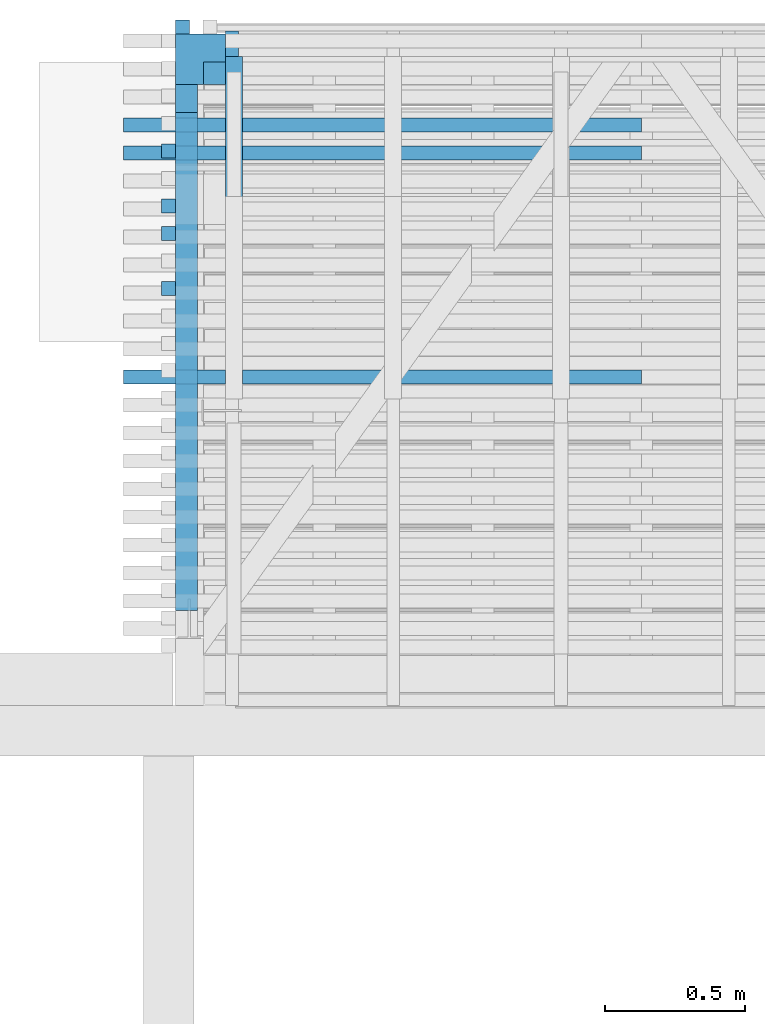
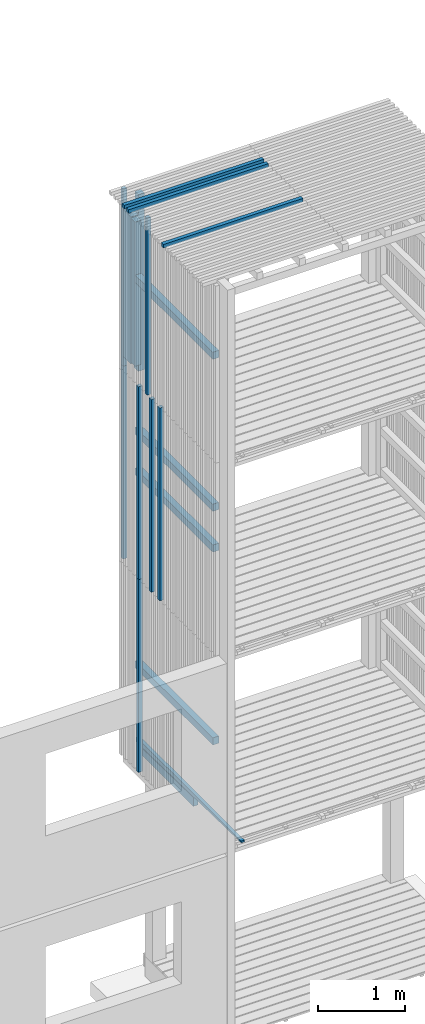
# One storey, part 13 of 182: 18 beams.
"""IFC2X3 building model written with IfcOpenShell, lengths in metres."""

from ifc_helpers import new_model, si_unit, frame, origin, place, context, project, spatial, faceted_brep, element, save


model = new_model("IFC2X3")

# Units and contexts
model_context = context("Model", 3, precision=1e-06, world=origin())
ifc_project = project(units=[si_unit("LENGTHUNIT", "METRE"), si_unit("PLANEANGLEUNIT", "RADIAN")], contexts=[model_context])

# Site, building, storey
site = spatial("IfcSite", under=ifc_project, CompositionType="ELEMENT")
building = spatial("IfcBuilding", under=site, CompositionType="ELEMENT")
storey = spatial("IfcBuildingStorey", under=building, Name="vs", CompositionType="ELEMENT", Elevation=-0.85)

# Beams
placement = place(None, origin())
beam_1_placement = place(placement, frame((3.339197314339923, 12.895077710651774, 5.274999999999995), z_axis=(0.0, -1.0, 0.0), x_axis=(0.0, 0.0, 1.0)))
element("IfcBeam", 1, at=beam_1_placement, inside=storey, Name="Bardage", context=model_context, shape_type="Brep", body=[
    faceted_brep([(1e-15, -0.025000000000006, 0.025000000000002), (1e-15, 0.024999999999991, 0.025000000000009), (1e-15, 0.025000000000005, -0.024999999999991), (1e-15, -0.024999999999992, -0.024999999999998), (2.699999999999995, -0.024999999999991, -0.024999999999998), (2.699999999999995, 0.025000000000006, -0.024999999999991), (2.699999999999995, 0.024999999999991, 0.025000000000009), (2.699999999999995, -0.025000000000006, 0.025000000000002), (1e-15, -0.025000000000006, 0.025000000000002), (1e-15, -0.024999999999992, -0.024999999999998), (2.699999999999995, -0.024999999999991, -0.024999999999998), (2.699999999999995, -0.025000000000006, 0.025000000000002), (2.699999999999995, -0.024999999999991, -0.024999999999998), (1e-15, -0.024999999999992, -0.024999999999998), (1e-15, 0.025000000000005, -0.024999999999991), (2.699999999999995, 0.025000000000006, -0.024999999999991), (2.699999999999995, 0.025000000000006, -0.024999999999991), (1e-15, 0.025000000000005, -0.024999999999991), (1e-15, 0.024999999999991, 0.025000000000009), (2.699999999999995, 0.024999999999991, 0.025000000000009), (2.699999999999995, 0.024999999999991, 0.025000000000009), (1e-15, 0.024999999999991, 0.025000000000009), (1e-15, -0.025000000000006, 0.025000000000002), (2.699999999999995, -0.025000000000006, 0.025000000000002)], [[[0, 1, 2, 3]], [[4, 5, 6, 7]], [[8, 9, 10, 11]], [[12, 13, 14, 15]], [[16, 17, 18, 19]], [[20, 21, 22, 23]]]),
])
beam_2_placement = place(placement, frame((3.339197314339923, 12.895077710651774, 7.974999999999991), z_axis=(0.0, -1.0, 0.0), x_axis=(0.0, 0.0, 1.0)))
element("IfcBeam", 2, at=beam_2_placement, inside=storey, Name="Bardage", context=model_context, shape_type="Brep", body=[
    faceted_brep([(2.479999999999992, -0.025000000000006, 0.025000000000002), (2.479999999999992, -0.024999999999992, -0.024999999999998), (2.479999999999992, 0.025000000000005, -0.024999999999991), (2.479999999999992, 0.024999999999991, 0.025000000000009), (0.0, 0.024999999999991, 0.025000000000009), (0.0, -0.025000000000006, 0.025000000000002), (2.479999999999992, -0.025000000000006, 0.025000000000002), (2.479999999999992, 0.024999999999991, 0.025000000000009), (0.0, -0.025000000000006, 0.025000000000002), (0.0, 0.024999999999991, 0.025000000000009), (0.0, 0.025000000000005, -0.024999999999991), (0.0, -0.024999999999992, -0.024999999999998), (0.0, 0.025000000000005, -0.024999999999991), (0.0, 0.024999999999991, 0.025000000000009), (2.479999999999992, 0.024999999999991, 0.025000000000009), (2.479999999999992, 0.025000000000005, -0.024999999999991), (0.0, -0.024999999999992, -0.024999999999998), (0.0, 0.025000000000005, -0.024999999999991), (2.479999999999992, 0.025000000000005, -0.024999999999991), (2.479999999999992, -0.024999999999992, -0.024999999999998), (2.479999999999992, -0.025000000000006, 0.025000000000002), (0.0, -0.025000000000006, 0.025000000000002), (0.0, -0.024999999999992, -0.024999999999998), (2.479999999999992, -0.024999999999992, -0.024999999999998)], [[[0, 1, 2, 3]], [[4, 5, 6, 7]], [[8, 9, 10, 11]], [[12, 13, 14, 15]], [[16, 17, 18, 19]], [[20, 21, 22, 23]]]),
])
beam_3_placement = place(placement, frame((3.404197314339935, 12.780077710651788, 7.979999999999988), z_axis=(0.0, -1.0, 0.0), x_axis=(0.0, 0.0, 1.0)))
element("IfcBeam", 3, at=beam_3_placement, inside=storey, Name="Poteau", context=model_context, shape_type="Brep", body=[
    faceted_brep([(2.194999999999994, -0.009999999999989, 0.089999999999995), (2.194999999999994, -0.009999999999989, 0.010000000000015), (2.194999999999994, -0.089999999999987, 0.010000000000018), (2.194999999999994, -0.089999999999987, -0.090000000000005), (2.194999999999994, 0.090000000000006, -0.090000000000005), (2.194999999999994, 0.090000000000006, 0.089999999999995), (0.139999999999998, 0.090000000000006, 0.089999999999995), (2.194999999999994, 0.090000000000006, 0.089999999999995), (2.194999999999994, 0.090000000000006, -0.090000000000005), (0.139999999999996, 0.090000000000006, -0.090000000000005), (0.059999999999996, -0.009999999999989, -0.009999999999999), (0.059999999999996, -0.089999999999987, -0.009999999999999), (-1e-15, -0.089999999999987, -0.009999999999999), (-1e-15, -0.009999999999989, -0.009999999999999), (-1e-15, -0.009999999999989, 0.089999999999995), (-1e-15, -0.009999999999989, -0.009999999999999), (-1e-15, -0.089999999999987, -0.009999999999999), (-1e-15, -0.089999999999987, 0.089999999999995), (0.139999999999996, -0.009999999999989, -0.090000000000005), (0.139999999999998, -0.009999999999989, 0.089999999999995), (0.139999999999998, 0.090000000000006, 0.089999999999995), (0.139999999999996, 0.090000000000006, -0.090000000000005), (0.059999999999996, -0.089999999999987, -0.009999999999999), (0.059999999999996, -0.009999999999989, -0.009999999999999), (0.059999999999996, -0.009999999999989, -0.090000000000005), (0.059999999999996, -0.089999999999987, -0.090000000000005), (-1e-15, -0.009999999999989, -0.009999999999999), (-1e-15, -0.009999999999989, 0.089999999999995), (0.139999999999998, -0.009999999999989, 0.089999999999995), (0.139999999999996, -0.009999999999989, -0.090000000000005), (0.059999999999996, -0.009999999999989, -0.090000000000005), (0.059999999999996, -0.009999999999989, -0.009999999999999), (0.059999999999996, -0.089999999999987, -0.090000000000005), (0.059999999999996, -0.009999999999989, -0.090000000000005), (0.139999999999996, -0.009999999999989, -0.090000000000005), (0.139999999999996, 0.090000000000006, -0.090000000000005), (2.194999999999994, 0.090000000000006, -0.090000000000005), (2.194999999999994, -0.089999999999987, -0.090000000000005), (2.474999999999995, -0.089999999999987, 0.089999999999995), (-1e-15, -0.089999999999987, 0.089999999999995), (-1e-15, -0.089999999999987, -0.009999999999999), (0.059999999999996, -0.089999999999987, -0.009999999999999), (0.059999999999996, -0.089999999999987, -0.090000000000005), (2.194999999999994, -0.089999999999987, -0.090000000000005), (2.194999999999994, -0.089999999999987, 0.010000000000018), (2.474999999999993, -0.089999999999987, 0.010000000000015), (2.474999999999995, -0.089999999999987, 0.089999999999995), (2.474999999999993, -0.089999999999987, 0.010000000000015), (2.474999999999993, -0.009999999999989, 0.010000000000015), (2.474999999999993, -0.009999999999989, 0.089999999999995), (2.194999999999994, -0.089999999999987, 0.010000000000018), (2.194999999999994, -0.009999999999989, 0.010000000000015), (2.474999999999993, -0.009999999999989, 0.010000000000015), (2.474999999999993, -0.089999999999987, 0.010000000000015), (2.474999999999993, -0.009999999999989, 0.089999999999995), (2.474999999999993, -0.009999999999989, 0.010000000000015), (2.194999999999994, -0.009999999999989, 0.010000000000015), (2.194999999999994, -0.009999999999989, 0.089999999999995), (2.474999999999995, -0.089999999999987, 0.089999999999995), (2.474999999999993, -0.009999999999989, 0.089999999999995), (2.194999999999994, -0.009999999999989, 0.089999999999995), (2.194999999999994, 0.090000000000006, 0.089999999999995), (0.139999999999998, 0.090000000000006, 0.089999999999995), (0.139999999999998, -0.009999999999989, 0.089999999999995), (-1e-15, -0.009999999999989, 0.089999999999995), (-1e-15, -0.089999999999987, 0.089999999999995)], [[[0, 1, 2, 3, 4, 5]], [[6, 7, 8, 9]], [[10, 11, 12, 13]], [[14, 15, 16, 17]], [[18, 19, 20, 21]], [[22, 23, 24, 25]], [[26, 27, 28, 29, 30, 31]], [[32, 33, 34, 35, 36, 37]], [[38, 39, 40, 41, 42, 43, 44, 45]], [[46, 47, 48, 49]], [[50, 51, 52, 53]], [[54, 55, 56, 57]], [[58, 59, 60, 61, 62, 63, 64, 65]]]),
])
beam_4_placement = place(placement, frame((4.979197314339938, 12.545077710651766, 10.47999999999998), z_axis=(0.0, 0.0, 1.0), x_axis=(-1.0, -2e-15, 0.0)))
element("IfcBeam", 4, at=beam_4_placement, inside=storey, Name="Bardage", context=model_context, shape_type="Brep", body=[
    faceted_brep([(1.850000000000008, -0.025000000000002, -0.024999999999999), (1.850000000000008, -0.025000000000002, 0.025000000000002), (-1e-15, -0.025000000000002, 0.025000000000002), (-1e-15, -0.025000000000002, -0.024999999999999), (1.850000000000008, -0.025000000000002, 0.025000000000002), (1.850000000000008, -0.025000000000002, -0.024999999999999), (1.850000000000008, 0.024999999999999, -0.024999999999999), (1.850000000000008, 0.024999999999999, 0.025000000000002), (1.850000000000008, 0.024999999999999, -0.024999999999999), (1.850000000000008, -0.025000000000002, -0.024999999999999), (-1e-15, -0.025000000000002, -0.024999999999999), (0.0, 0.025000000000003, -0.024999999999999), (1.850000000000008, 0.024999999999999, 0.025000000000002), (1.850000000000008, 0.024999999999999, -0.024999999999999), (0.0, 0.025000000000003, -0.024999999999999), (0.0, 0.025000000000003, 0.025000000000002), (-1e-15, -0.025000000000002, 0.025000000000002), (1.850000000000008, -0.025000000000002, 0.025000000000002), (1.850000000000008, 0.024999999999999, 0.025000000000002), (0.0, 0.025000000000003, 0.025000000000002), (-1e-15, -0.025000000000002, -0.024999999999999), (-1e-15, -0.025000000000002, 0.025000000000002), (0.0, 0.025000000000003, 0.025000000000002), (0.0, 0.025000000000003, -0.024999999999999)], [[[0, 1, 2, 3]], [[4, 5, 6, 7]], [[8, 9, 10, 11]], [[12, 13, 14, 15]], [[16, 17, 18, 19]], [[20, 21, 22, 23]]]),
])
beam_5_placement = place(placement, frame((3.354197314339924, 12.64007771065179, 8.146999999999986), z_axis=(0.0, -1.0, 0.0), x_axis=(0.0, 0.0, 1.0)))
element("IfcBeam", 5, at=beam_5_placement, inside=storey, Name="Support bardage", context=model_context, shape_type="Brep", body=[
    faceted_brep([(2.017999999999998, -0.040000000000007, -0.050000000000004), (2.017999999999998, 0.039999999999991, -0.050000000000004), (2.017999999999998, 0.039999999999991, 0.049999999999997), (2.017999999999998, -0.040000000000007, 0.049999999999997), (1e-15, 0.039999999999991, -0.050000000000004), (1e-15, -0.040000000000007, -0.050000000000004), (1e-15, -0.040000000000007, 0.049999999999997), (1e-15, 0.039999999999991, 0.049999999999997), (2.017999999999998, 0.039999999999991, 0.049999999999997), (2.017999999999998, 0.039999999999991, -0.050000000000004), (1e-15, 0.039999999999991, -0.050000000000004), (1e-15, 0.039999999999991, 0.049999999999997), (1e-15, 0.039999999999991, -0.050000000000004), (2.017999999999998, 0.039999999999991, -0.050000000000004), (2.017999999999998, -0.040000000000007, -0.050000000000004), (1e-15, -0.040000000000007, -0.050000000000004), (1e-15, -0.040000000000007, -0.050000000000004), (2.017999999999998, -0.040000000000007, -0.050000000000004), (2.017999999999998, -0.040000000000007, 0.049999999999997), (1e-15, -0.040000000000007, 0.049999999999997), (1e-15, -0.040000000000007, 0.049999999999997), (2.017999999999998, -0.040000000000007, 0.049999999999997), (2.017999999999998, 0.039999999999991, 0.049999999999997), (1e-15, 0.039999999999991, 0.049999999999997)], [[[0, 1, 2, 3]], [[4, 5, 6, 7]], [[8, 9, 10, 11]], [[12, 13, 14, 15]], [[16, 17, 18, 19]], [[20, 21, 22, 23]]]),
])
beam_6_placement = place(placement, frame((3.354197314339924, 10.810077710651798, 9.37249999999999), z_axis=(0.0, 0.0, 1.0), x_axis=(0.0, 1.0, 0.0)))
element("IfcBeam", 6, at=beam_6_placement, inside=storey, Name="Support bardage", context=model_context, shape_type="Brep", body=[
    faceted_brep([(1.779999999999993, 0.039999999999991, -0.050000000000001), (1.779999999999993, 0.039999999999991, 0.050000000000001), (1.779999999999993, -0.040000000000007, 0.050000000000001), (1.779999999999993, -0.040000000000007, -0.050000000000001), (1.779999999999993, -0.040000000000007, 0.050000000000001), (1.779999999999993, 0.039999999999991, 0.050000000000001), (-4e-15, 0.039999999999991, 0.050000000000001), (-4e-15, -0.040000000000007, 0.050000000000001), (-4e-15, 0.039999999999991, 0.050000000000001), (1.779999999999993, 0.039999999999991, 0.050000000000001), (1.779999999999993, 0.039999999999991, -0.050000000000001), (-4e-15, 0.039999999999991, -0.050000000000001), (1.779999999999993, -0.040000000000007, -0.050000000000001), (1.779999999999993, -0.040000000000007, 0.050000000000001), (-4e-15, -0.040000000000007, 0.050000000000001), (-4e-15, -0.040000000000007, -0.050000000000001), (-4e-15, 0.039999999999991, -0.050000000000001), (1.779999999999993, 0.039999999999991, -0.050000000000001), (1.779999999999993, -0.040000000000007, -0.050000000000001), (-4e-15, -0.040000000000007, -0.050000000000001), (-4e-15, 0.039999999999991, 0.050000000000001), (-4e-15, 0.039999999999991, -0.050000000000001), (-4e-15, -0.040000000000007, -0.050000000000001), (-4e-15, -0.040000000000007, 0.050000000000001)], [[[0, 1, 2, 3]], [[4, 5, 6, 7]], [[8, 9, 10, 11]], [[12, 13, 14, 15]], [[16, 17, 18, 19]], [[20, 21, 22, 23]]]),
])
beam_7_placement = place(placement, frame((3.289197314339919, 11.96144134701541, 5.274999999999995), z_axis=(1.0, 0.0, 0.0), x_axis=(0.0, 0.0, 1.0)))
element("IfcBeam", 7, at=beam_7_placement, inside=storey, Name="Bardage", context=model_context, shape_type="Brep", body=[
    faceted_brep([(2.699999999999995, 0.024999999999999, 0.025000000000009), (2.699999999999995, -0.024999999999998, 0.025000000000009), (2.699999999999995, -0.024999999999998, -0.025000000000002), (2.699999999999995, 0.024999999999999, -0.025000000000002), (1e-15, 0.024999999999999, 0.025000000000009), (2.699999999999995, 0.024999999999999, 0.025000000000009), (2.699999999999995, 0.024999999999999, -0.025000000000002), (1e-15, 0.024999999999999, -0.025000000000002), (1e-15, -0.024999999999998, 0.025000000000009), (1e-15, 0.024999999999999, 0.025000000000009), (1e-15, 0.024999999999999, -0.025000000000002), (1e-15, -0.024999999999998, -0.025000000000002), (1e-15, 0.024999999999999, 0.025000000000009), (1e-15, -0.024999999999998, 0.025000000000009), (2.699999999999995, -0.024999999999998, 0.025000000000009), (2.699999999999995, 0.024999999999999, 0.025000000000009), (1e-15, -0.024999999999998, 0.025000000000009), (1e-15, -0.024999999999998, -0.025000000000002), (2.699999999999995, -0.024999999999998, -0.025000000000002), (2.699999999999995, -0.024999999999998, 0.025000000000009), (1e-15, -0.024999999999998, -0.025000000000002), (1e-15, 0.024999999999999, -0.025000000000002), (2.699999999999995, 0.024999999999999, -0.025000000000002), (2.699999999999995, -0.024999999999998, -0.025000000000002)], [[[0, 1, 2, 3]], [[4, 5, 6, 7]], [[8, 9, 10, 11]], [[12, 13, 14, 15]], [[16, 17, 18, 19]], [[20, 21, 22, 23]]]),
])
beam_8_placement = place(placement, frame((3.289197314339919, 12.25598680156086, 7.974999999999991), z_axis=(1.0, 0.0, 0.0), x_axis=(0.0, 0.0, 1.0)))
element("IfcBeam", 8, at=beam_8_placement, inside=storey, Name="Bardage", context=model_context, shape_type="Brep", body=[
    faceted_brep([(0.0, -0.025000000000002, 0.025000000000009), (0.0, 0.024999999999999, 0.025000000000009), (0.0, 0.024999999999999, -0.025000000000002), (0.0, -0.025000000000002, -0.025000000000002), (2.479999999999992, 0.024999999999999, -0.025000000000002), (2.479999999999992, 0.024999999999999, 0.025000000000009), (2.479999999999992, -0.025000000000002, 0.025000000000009), (2.479999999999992, -0.025000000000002, -0.025000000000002), (0.0, 0.024999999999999, 0.025000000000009), (0.0, -0.025000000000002, 0.025000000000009), (2.479999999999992, -0.025000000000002, 0.025000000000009), (2.479999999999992, 0.024999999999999, 0.025000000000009), (0.0, 0.024999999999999, -0.025000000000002), (0.0, 0.024999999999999, 0.025000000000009), (2.479999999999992, 0.024999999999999, 0.025000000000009), (2.479999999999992, 0.024999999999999, -0.025000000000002), (0.0, -0.025000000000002, -0.025000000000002), (0.0, 0.024999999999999, -0.025000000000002), (2.479999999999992, 0.024999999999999, -0.025000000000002), (2.479999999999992, -0.025000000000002, -0.025000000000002), (2.479999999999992, -0.025000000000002, 0.025000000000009), (0.0, -0.025000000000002, 0.025000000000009), (0.0, -0.025000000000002, -0.025000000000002), (2.479999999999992, -0.025000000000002, -0.025000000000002)], [[[0, 1, 2, 3]], [[4, 5, 6, 7]], [[8, 9, 10, 11]], [[12, 13, 14, 15]], [[16, 17, 18, 19]], [[20, 21, 22, 23]]]),
])
beam_9_placement = place(placement, frame((3.354197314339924, 10.810077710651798, 6.672499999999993), z_axis=(0.0, 0.0, 1.0), x_axis=(0.0, 1.0, 0.0)))
element("IfcBeam", 9, at=beam_9_placement, inside=storey, Name="Support bardage", context=model_context, shape_type="Brep", body=[
    faceted_brep([(1.779999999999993, 0.039999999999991, -0.05), (1.779999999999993, 0.039999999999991, 0.050000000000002), (1.779999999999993, -0.040000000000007, 0.050000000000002), (1.779999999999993, -0.040000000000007, -0.05), (1.779999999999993, -0.040000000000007, 0.050000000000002), (1.779999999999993, 0.039999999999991, 0.050000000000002), (-4e-15, 0.039999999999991, 0.050000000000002), (-4e-15, -0.040000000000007, 0.050000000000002), (-4e-15, 0.039999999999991, 0.050000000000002), (1.779999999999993, 0.039999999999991, 0.050000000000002), (1.779999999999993, 0.039999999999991, -0.05), (-4e-15, 0.039999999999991, -0.05), (1.779999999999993, -0.040000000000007, -0.05), (1.779999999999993, -0.040000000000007, 0.050000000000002), (-4e-15, -0.040000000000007, 0.050000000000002), (-4e-15, -0.040000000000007, -0.05), (-4e-15, 0.039999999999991, -0.05), (1.779999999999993, 0.039999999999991, -0.05), (1.779999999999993, -0.040000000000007, -0.05), (-4e-15, -0.040000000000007, -0.05), (-4e-15, 0.039999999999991, 0.050000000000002), (-4e-15, 0.039999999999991, -0.05), (-4e-15, -0.040000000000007, -0.05), (-4e-15, -0.040000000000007, 0.050000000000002)], [[[0, 1, 2, 3]], [[4, 5, 6, 7]], [[8, 9, 10, 11]], [[12, 13, 14, 15]], [[16, 17, 18, 19]], [[20, 21, 22, 23]]]),
])
beam_10_placement = place(placement, frame((3.354197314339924, 10.810077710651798, 3.972499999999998), z_axis=(0.0, 0.0, 1.0), x_axis=(0.0, 1.0, 0.0)))
element("IfcBeam", 10, at=beam_10_placement, inside=storey, Name="Support bardage", context=model_context, shape_type="Brep", body=[
    faceted_brep([(1.779999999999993, 0.039999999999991, -0.050000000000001), (1.779999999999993, 0.039999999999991, 0.050000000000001), (1.779999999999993, -0.040000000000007, 0.050000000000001), (1.779999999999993, -0.040000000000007, -0.050000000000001), (1.779999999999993, -0.040000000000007, 0.050000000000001), (1.779999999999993, 0.039999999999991, 0.050000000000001), (-4e-15, 0.039999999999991, 0.050000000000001), (-4e-15, -0.040000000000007, 0.050000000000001), (-4e-15, 0.039999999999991, 0.050000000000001), (1.779999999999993, 0.039999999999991, 0.050000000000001), (1.779999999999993, 0.039999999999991, -0.050000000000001), (-4e-15, 0.039999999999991, -0.050000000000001), (1.779999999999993, -0.040000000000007, -0.050000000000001), (1.779999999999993, -0.040000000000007, 0.050000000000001), (-4e-15, -0.040000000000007, 0.050000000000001), (-4e-15, -0.040000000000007, -0.050000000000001), (-4e-15, 0.039999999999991, -0.050000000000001), (1.779999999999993, 0.039999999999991, -0.050000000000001), (1.779999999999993, -0.040000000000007, -0.050000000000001), (-4e-15, -0.040000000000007, -0.050000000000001), (-4e-15, 0.039999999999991, 0.050000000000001), (-4e-15, 0.039999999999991, -0.050000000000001), (-4e-15, -0.040000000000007, -0.050000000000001), (-4e-15, -0.040000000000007, 0.050000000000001)], [[[0, 1, 2, 3]], [[4, 5, 6, 7]], [[8, 9, 10, 11]], [[12, 13, 14, 15]], [[16, 17, 18, 19]], [[20, 21, 22, 23]]]),
])
beam_11_placement = place(placement, frame((3.524197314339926, 11.565077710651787, 2.604249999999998), z_axis=(0.0, 0.0, 1.0), x_axis=(0.0, 1.0, 0.0)))
element("IfcBeam", 11, at=beam_11_placement, inside=storey, Name="Solive", context=model_context, shape_type="Brep", body=[
    faceted_brep([(0.0, -0.030000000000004, -0.06185), (1.225000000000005, -0.030000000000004, -0.06185), (1.225000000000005, -0.030000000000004, 0.037349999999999), (0.0, -0.030000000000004, 0.06185), (0.0, 0.029999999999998, -0.06185), (1.225000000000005, 0.029999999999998, -0.06185), (1.225000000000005, -0.030000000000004, -0.06185), (0.0, -0.030000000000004, -0.06185), (0.0, 0.029999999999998, 0.06185), (0.0, 0.029999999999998, -0.06185), (0.0, -0.030000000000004, -0.06185), (0.0, -0.030000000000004, 0.06185), (1.225000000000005, 0.029999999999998, -0.06185), (0.0, 0.029999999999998, -0.06185), (0.0, 0.029999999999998, 0.06185), (1.225000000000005, 0.029999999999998, 0.037349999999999), (1.225000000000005, -0.030000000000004, 0.037349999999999), (1.225000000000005, -0.030000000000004, -0.06185), (1.225000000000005, 0.029999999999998, -0.06185), (1.225000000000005, 0.029999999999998, 0.037349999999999), (0.0, -0.030000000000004, 0.06185), (1.225000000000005, -0.030000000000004, 0.037349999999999), (1.225000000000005, 0.029999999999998, 0.037349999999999), (0.0, 0.029999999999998, 0.06185)], [[[0, 1, 2, 3]], [[4, 5, 6, 7]], [[8, 9, 10, 11]], [[12, 13, 14, 15]], [[16, 17, 18, 19]], [[20, 21, 22, 23]]]),
])
beam_12_placement = place(placement, frame((4.979197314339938, 11.645077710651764, 10.47999999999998), z_axis=(0.0, 0.0, 1.0), x_axis=(-1.0, 0.0, 0.0)))
element("IfcBeam", 12, at=beam_12_placement, inside=storey, Name="Bardage", context=model_context, shape_type="Brep", body=[
    faceted_brep([(1.850000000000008, -0.024999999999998, -0.024999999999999), (1.850000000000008, -0.024999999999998, 0.025000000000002), (-1e-15, -0.025000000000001, 0.025000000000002), (-1e-15, -0.025000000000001, -0.024999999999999), (1.850000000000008, -0.024999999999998, 0.025000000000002), (1.850000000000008, -0.024999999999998, -0.024999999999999), (1.850000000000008, 0.024999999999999, -0.024999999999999), (1.850000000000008, 0.024999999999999, 0.025000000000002), (1.850000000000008, 0.024999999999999, -0.024999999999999), (1.850000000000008, -0.024999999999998, -0.024999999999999), (-1e-15, -0.025000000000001, -0.024999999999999), (-1e-15, 0.024999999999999, -0.024999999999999), (1.850000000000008, 0.024999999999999, 0.025000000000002), (1.850000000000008, 0.024999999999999, -0.024999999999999), (-1e-15, 0.024999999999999, -0.024999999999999), (-1e-15, 0.024999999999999, 0.025000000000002), (-1e-15, -0.025000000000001, 0.025000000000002), (1.850000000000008, -0.024999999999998, 0.025000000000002), (1.850000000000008, 0.024999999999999, 0.025000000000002), (-1e-15, 0.024999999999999, 0.025000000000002), (-1e-15, -0.025000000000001, -0.024999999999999), (-1e-15, -0.025000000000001, 0.025000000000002), (-1e-15, 0.024999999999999, 0.025000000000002), (-1e-15, 0.024999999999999, -0.024999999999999)], [[[0, 1, 2, 3]], [[4, 5, 6, 7]], [[8, 9, 10, 11]], [[12, 13, 14, 15]], [[16, 17, 18, 19]], [[20, 21, 22, 23]]]),
])
beam_13_placement = place(placement, frame((3.289197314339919, 12.452350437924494, 5.274999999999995), z_axis=(1.0, 0.0, 0.0), x_axis=(0.0, 0.0, 1.0)))
element("IfcBeam", 13, at=beam_13_placement, inside=storey, Name="Bardage", context=model_context, shape_type="Brep", body=[
    faceted_brep([(2.699999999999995, 0.024999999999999, 0.025000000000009), (2.699999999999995, -0.024999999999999, 0.025000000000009), (2.699999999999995, -0.024999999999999, -0.025000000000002), (2.699999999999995, 0.024999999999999, -0.025000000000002), (1e-15, 0.024999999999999, 0.025000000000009), (2.699999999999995, 0.024999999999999, 0.025000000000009), (2.699999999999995, 0.024999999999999, -0.025000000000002), (1e-15, 0.024999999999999, -0.025000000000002), (1e-15, -0.024999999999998, 0.025000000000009), (1e-15, 0.024999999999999, 0.025000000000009), (1e-15, 0.024999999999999, -0.025000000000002), (1e-15, -0.024999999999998, -0.025000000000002), (1e-15, 0.024999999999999, 0.025000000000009), (1e-15, -0.024999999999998, 0.025000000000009), (2.699999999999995, -0.024999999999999, 0.025000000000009), (2.699999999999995, 0.024999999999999, 0.025000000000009), (1e-15, -0.024999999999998, 0.025000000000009), (1e-15, -0.024999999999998, -0.025000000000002), (2.699999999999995, -0.024999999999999, -0.025000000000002), (2.699999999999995, -0.024999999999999, 0.025000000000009), (1e-15, -0.024999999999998, -0.025000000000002), (1e-15, 0.024999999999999, -0.025000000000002), (2.699999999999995, 0.024999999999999, -0.025000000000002), (2.699999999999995, -0.024999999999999, -0.025000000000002)], [[[0, 1, 2, 3]], [[4, 5, 6, 7]], [[8, 9, 10, 11]], [[12, 13, 14, 15]], [[16, 17, 18, 19]], [[20, 21, 22, 23]]]),
])
beam_14_placement = place(placement, frame((4.979197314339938, 12.445077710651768, 10.47999999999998), z_axis=(0.0, 0.0, 1.0), x_axis=(-1.0, -2e-15, 0.0)))
element("IfcBeam", 14, at=beam_14_placement, inside=storey, Name="Bardage", context=model_context, shape_type="Brep", body=[
    faceted_brep([(1.850000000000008, -0.025000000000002, -0.024999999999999), (1.850000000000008, -0.025000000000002, 0.025000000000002), (-1e-15, -0.024999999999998, 0.025000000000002), (-1e-15, -0.024999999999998, -0.024999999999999), (1.850000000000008, -0.025000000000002, 0.025000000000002), (1.850000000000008, -0.025000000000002, -0.024999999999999), (1.850000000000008, 0.025000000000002, -0.024999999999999), (1.850000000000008, 0.025000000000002, 0.025000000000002), (1.850000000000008, 0.025000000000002, -0.024999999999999), (1.850000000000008, -0.025000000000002, -0.024999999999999), (-1e-15, -0.024999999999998, -0.024999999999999), (0.0, 0.025000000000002, -0.024999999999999), (1.850000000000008, 0.025000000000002, 0.025000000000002), (1.850000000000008, 0.025000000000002, -0.024999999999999), (0.0, 0.025000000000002, -0.024999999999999), (0.0, 0.025000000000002, 0.025000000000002), (-1e-15, -0.024999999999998, 0.025000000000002), (1.850000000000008, -0.025000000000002, 0.025000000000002), (1.850000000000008, 0.025000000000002, 0.025000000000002), (0.0, 0.025000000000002, 0.025000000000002), (-1e-15, -0.024999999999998, -0.024999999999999), (-1e-15, -0.024999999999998, 0.025000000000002), (0.0, 0.025000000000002, 0.025000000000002), (0.0, 0.025000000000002, -0.024999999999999)], [[[0, 1, 2, 3]], [[4, 5, 6, 7]], [[8, 9, 10, 11]], [[12, 13, 14, 15]], [[16, 17, 18, 19]], [[20, 21, 22, 23]]]),
])
beam_15_placement = place(placement, frame((3.289197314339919, 12.452350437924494, 2.575000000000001), z_axis=(1.0, 0.0, 0.0), x_axis=(0.0, 0.0, 1.0)))
element("IfcBeam", 15, at=beam_15_placement, inside=storey, Name="Bardage", context=model_context, shape_type="Brep", body=[
    faceted_brep([(2.699961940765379, -0.024999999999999, 0.025000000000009), (2.699961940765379, -0.024999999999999, -0.025000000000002), (2.699961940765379, 0.024999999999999, -0.025000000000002), (2.699961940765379, 0.024999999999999, 0.025000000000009), (0.0, -0.024999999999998, 0.025000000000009), (2.699961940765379, -0.024999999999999, 0.025000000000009), (2.699961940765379, 0.024999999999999, 0.025000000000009), (0.0, 0.024999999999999, 0.025000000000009), (0.0, -0.024999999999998, 0.025000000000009), (0.0, 0.024999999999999, 0.025000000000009), (0.0, 0.024999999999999, -0.025000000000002), (0.0, -0.024999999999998, -0.025000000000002), (0.0, -0.024999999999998, 0.025000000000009), (0.0, -0.024999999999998, -0.025000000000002), (2.699961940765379, -0.024999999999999, -0.025000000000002), (2.699961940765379, -0.024999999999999, 0.025000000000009), (0.0, -0.024999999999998, -0.025000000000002), (0.0, 0.024999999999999, -0.025000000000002), (2.699961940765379, 0.024999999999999, -0.025000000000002), (2.699961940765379, -0.024999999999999, -0.025000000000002), (0.0, 0.024999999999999, -0.025000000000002), (0.0, 0.024999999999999, 0.025000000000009), (2.699961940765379, 0.024999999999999, 0.025000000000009), (2.699961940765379, 0.024999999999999, -0.025000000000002)], [[[0, 1, 2, 3]], [[4, 5, 6, 7]], [[8, 9, 10, 11]], [[12, 13, 14, 15]], [[16, 17, 18, 19]], [[20, 21, 22, 23]]]),
])
beam_16_placement = place(placement, frame((3.516697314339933, 10.470077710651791, 2.684400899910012), z_axis=(0.0, 0.0, 1.0), x_axis=(0.0, 1.0, 0.0)))
element("IfcBeam", 16, at=beam_16_placement, inside=storey, Name="Calage", context=model_context, shape_type="Brep", body=[
    faceted_brep([(2.41000000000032, -0.022499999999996, -0.035599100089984), (0.0, -0.022499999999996, 0.012600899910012), (0.0, 0.022500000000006, 0.012600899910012), (2.41000000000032, 0.022500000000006, -0.035599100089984), (0.0, 0.022500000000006, 0.035599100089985), (0.0, 0.022500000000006, 0.012600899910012), (0.0, -0.022499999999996, 0.012600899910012), (0.0, -0.022499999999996, 0.035599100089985), (2.41000000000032, 0.022500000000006, -0.035599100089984), (0.0, 0.022500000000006, 0.012600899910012), (0.0, 0.022500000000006, 0.035599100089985), (2.41000000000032, 0.022500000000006, 0.035599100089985), (2.41000000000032, -0.022499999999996, 0.035599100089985), (0.0, -0.022499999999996, 0.035599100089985), (0.0, -0.022499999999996, 0.012600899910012), (2.41000000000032, -0.022499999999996, -0.035599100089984), (2.41000000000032, 0.022500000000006, 0.035599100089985), (0.0, 0.022500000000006, 0.035599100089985), (0.0, -0.022499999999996, 0.035599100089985), (2.41000000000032, -0.022499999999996, 0.035599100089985), (2.41000000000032, 0.022500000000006, -0.035599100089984), (2.41000000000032, 0.022500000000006, 0.035599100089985), (2.41000000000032, -0.022499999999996, 0.035599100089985), (2.41000000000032, -0.022499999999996, -0.035599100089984)], [[[0, 1, 2, 3]], [[4, 5, 6, 7]], [[8, 9, 10, 11]], [[12, 13, 14, 15]], [[16, 17, 18, 19]], [[20, 21, 22, 23]]]),
])
beam_17_placement = place(placement, frame((3.354197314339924, 10.810077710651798, 7.24374999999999), z_axis=(0.0, 0.0, 1.0), x_axis=(0.0, 1.0, 0.0)))
element("IfcBeam", 17, at=beam_17_placement, inside=storey, Name="Support bardage", context=model_context, shape_type="Brep", body=[
    faceted_brep([(1.779999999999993, 0.039999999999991, -0.049999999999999), (1.779999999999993, 0.039999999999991, 0.050000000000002), (1.779999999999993, -0.040000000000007, 0.050000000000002), (1.779999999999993, -0.040000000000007, -0.049999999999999), (1.779999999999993, -0.040000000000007, 0.050000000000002), (1.779999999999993, 0.039999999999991, 0.050000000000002), (-4e-15, 0.039999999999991, 0.050000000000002), (-4e-15, -0.040000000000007, 0.050000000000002), (-4e-15, 0.039999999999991, 0.050000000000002), (1.779999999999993, 0.039999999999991, 0.050000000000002), (1.779999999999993, 0.039999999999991, -0.049999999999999), (-4e-15, 0.039999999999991, -0.049999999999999), (1.779999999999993, -0.040000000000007, -0.049999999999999), (1.779999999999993, -0.040000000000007, 0.050000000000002), (-4e-15, -0.040000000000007, 0.050000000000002), (-4e-15, -0.040000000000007, -0.049999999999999), (-4e-15, 0.039999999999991, -0.049999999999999), (1.779999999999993, 0.039999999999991, -0.049999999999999), (1.779999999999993, -0.040000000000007, -0.049999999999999), (-4e-15, -0.040000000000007, -0.049999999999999), (-4e-15, 0.039999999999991, 0.050000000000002), (-4e-15, 0.039999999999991, -0.049999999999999), (-4e-15, -0.040000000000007, -0.049999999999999), (-4e-15, -0.040000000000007, 0.050000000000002)], [[[0, 1, 2, 3]], [[4, 5, 6, 7]], [[8, 9, 10, 11]], [[12, 13, 14, 15]], [[16, 17, 18, 19]], [[20, 21, 22, 23]]]),
])
beam_18_placement = place(placement, frame((3.289197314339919, 12.157804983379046, 5.274999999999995), z_axis=(1.0, 0.0, 0.0), x_axis=(0.0, 0.0, 1.0)))
element("IfcBeam", 18, at=beam_18_placement, inside=storey, Name="Bardage", context=model_context, shape_type="Brep", body=[
    faceted_brep([(2.699999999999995, 0.024999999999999, 0.025000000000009), (2.699999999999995, -0.024999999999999, 0.025000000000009), (2.699999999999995, -0.024999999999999, -0.025000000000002), (2.699999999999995, 0.024999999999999, -0.025000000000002), (1e-15, 0.024999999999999, 0.025000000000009), (2.699999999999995, 0.024999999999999, 0.025000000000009), (2.699999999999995, 0.024999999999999, -0.025000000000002), (1e-15, 0.024999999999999, -0.025000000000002), (1e-15, -0.024999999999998, 0.025000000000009), (1e-15, 0.024999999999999, 0.025000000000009), (1e-15, 0.024999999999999, -0.025000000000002), (1e-15, -0.024999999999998, -0.025000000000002), (1e-15, 0.024999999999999, 0.025000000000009), (1e-15, -0.024999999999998, 0.025000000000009), (2.699999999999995, -0.024999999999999, 0.025000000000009), (2.699999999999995, 0.024999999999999, 0.025000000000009), (1e-15, -0.024999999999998, 0.025000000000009), (1e-15, -0.024999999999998, -0.025000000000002), (2.699999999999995, -0.024999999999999, -0.025000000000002), (2.699999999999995, -0.024999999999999, 0.025000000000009), (1e-15, -0.024999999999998, -0.025000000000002), (1e-15, 0.024999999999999, -0.025000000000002), (2.699999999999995, 0.024999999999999, -0.025000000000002), (2.699999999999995, -0.024999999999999, -0.025000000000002)], [[[0, 1, 2, 3]], [[4, 5, 6, 7]], [[8, 9, 10, 11]], [[12, 13, 14, 15]], [[16, 17, 18, 19]], [[20, 21, 22, 23]]]),
])

save(model, "model.ifc")
